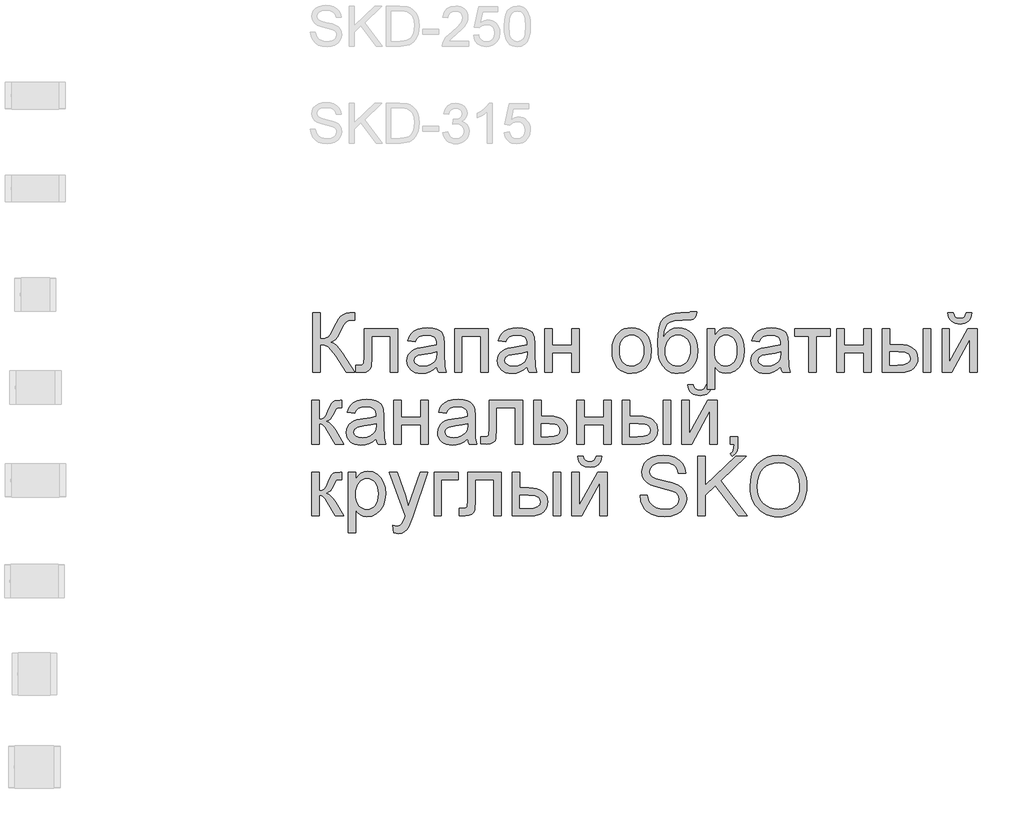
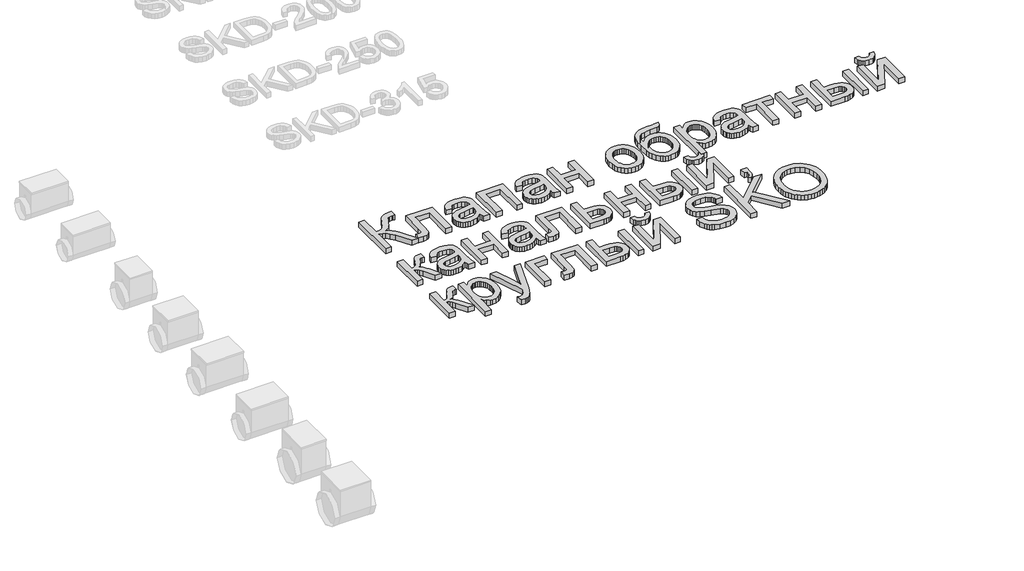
# One storey, part 9 of 31: 1 proxy.
"""IFC4 building model written with IfcOpenShell, lengths in millimetres."""

from ifc_helpers import new_model, si_unit, origin, origin_with_axes, place, context, project, spatial, polyline, outline, extrude, element, save

model = new_model("IFC4")

# Units and contexts
model_context = context("Model", 3, world=origin())
ifc_project = project(units=[si_unit("LENGTHUNIT", "METRE", prefix="MILLI")], contexts=[model_context])

# Site, building, storey
site = spatial("IfcSite", under=ifc_project)
building = spatial("IfcBuilding", under=site)
storey = spatial("IfcBuildingStorey", under=building, Name="Этаж 01", Elevation=0.0)

# Proxy
placement = place(None, origin())
element("IfcBuildingElementProxy", 1, Name="450 мм Arial", ObjectType="450 мм Arial", at=placement, inside=storey, context=model_context, shape_type="SweptSolid", body=[
    extrude(outline(polyline([(10419.0852891, -22173.162397), (10475.292307, -22173.162397), (10475.292307, -22369.8869595), (10513.3445678, -22366.1681847), (10538.1409744, -22355.0118601), (10558.1894249, -22328.7608774), (10581.9978174, -22279.7581282), (10613.0104787, -22216.9094607), (10627.9679126, -22199.8799419), (10648.1398648, -22185.7870202), (10672.0854815, -22176.3185528), (10698.3639091, -22173.162397), (10735.2497645, -22173.821073), (10735.2497645, -22230.0280909), (10722.8447001, -22229.6987529), (10710.4396356, -22229.3694149), (10684.6963823, -22232.7451294), (10666.5279029, -22242.8722727), (10650.8843481, -22264.1420182), (10633.154986, -22300.7259805), (10611.4049559, -22346.2844032), (10593.3599783, -22371.2043115), (10575.5620041, -22384.3229417), (10554.5529845, -22394.4775298), (10576.3235982, -22403.740161), (10597.9432654, -22419.8914451), (10619.4119859, -22442.9313824), (10640.7297599, -22472.8599727), (10735.2497645, -22622.8185399), (10670.0408415, -22622.8185399), (10590.121488, -22496.133191), (10559.2597733, -22455.5011159), (10533.8595805, -22429.9911437), (10507.8830461, -22416.5294531), (10475.292307, -22412.0422229), (10475.292307, -22622.8185399), (10419.0852891, -22622.8185399), (10419.0852891, -22173.162397)])), origin_with_axes(), (0.0, 0.0, 1.0), 50.0),
    extrude(outline(polyline([(10805.5085369, -22292.60231), (11058.4401172, -22292.60231), (11058.4401172, -22622.4892019), (11002.2330993, -22622.4892019), (11002.2330993, -22348.8093278), (10861.7155547, -22348.8093278), (10861.7155547, -22506.3426689), (10857.9281678, -22579.0165865), (10850.8336785, -22595.4697638), (10837.1249844, -22609.6999097), (10816.321801, -22619.5388823), (10787.9438438, -22622.8185399), (10742.2756418, -22619.9642772), (10742.2756418, -22566.611522), (10767.4151087, -22566.611522), (10792.829024, -22563.1534731), (10799.1825029, -22558.6799653), (10802.9836122, -22552.1755399), (10805.5085369, -22503.1590683), (10805.5085369, -22292.60231)])), origin_with_axes(), (0.0, 0.0, 1.0), 50.0),
    extrude(outline(polyline([(11353.5269609, -22580.6632765), (11326.6721919, -22603.6894913), (11299.0215227, -22618.7567046), (11269.9437222, -22627.072489), (11238.8075593, -22629.8444171), (11213.7813022, -22628.1771435), (11191.8357277, -22623.1753227), (11172.9708356, -22614.8389547), (11157.1866261, -22603.1680395), (11144.7232413, -22588.9035876), (11135.8208237, -22572.7866094), (11130.4793731, -22554.8171051), (11128.6988895, -22534.9950745), (11131.3884831, -22511.6944113), (11139.457264, -22490.5344451), (11151.9034958, -22472.4208554), (11167.7254419, -22458.2593216), (11186.3193163, -22447.5558367), (11207.0813324, -22439.8163939), (11255.7135763, -22431.3633853), (11313.1830565, -22422.4712594), (11353.1976229, -22412.0422229), (11353.5269609, -22399.5273791), (11349.6572395, -22374.4428018), (11338.0480751, -22358.0307917), (11312.0852632, -22345.8452859), (11275.9129734, -22341.7834506), (11242.4302772, -22344.4867667), (11219.0472795, -22352.5967148), (11203.1018316, -22367.595316), (11191.9317846, -22390.9645912), (11135.7247667, -22383.938714), (11145.4814049, -22353.2005011), (11160.0408887, -22329.0490481), (11180.7617376, -22310.5786756), (11209.0024707, -22296.8837039), (11243.5417929, -22288.4032505), (11283.1584093, -22285.5764328), (11321.1557805, -22288.0739126), (11351.2764846, -22295.5663519), (11373.9870839, -22306.8324559), (11389.7541404, -22320.6509292), (11400.2106217, -22337.7353377), (11406.9894955, -22358.799247), (11409.7339788, -22407.9803876), (11409.7339788, -22477.909822), (11412.5882414, -22575.5585376), (11423.7857332, -22622.8185399), (11367.5787154, -22622.8185399), (11358.5768102, -22603.2778188), (11353.5269609, -22580.6632765)]), holes=[polyline([(11353.5269609, -22468.2492408), (11315.7628708, -22477.6079288), (11262.8492329, -22485.4845959), (11214.4914373, -22494.5962804), (11201.9079814, -22500.8262575), (11192.5904606, -22509.4164902), (11186.8270457, -22519.7083025), (11184.9059074, -22531.0430185), (11189.0912444, -22547.7569218), (11201.6472555, -22561.4518934), (11222.2994922, -22570.5910228), (11250.7735064, -22573.6373992), (11280.9628226, -22570.2754072), (11307.6392003, -22560.1894311), (11329.2657286, -22545.3280541), (11344.3054971, -22527.6398592), (11350.9745915, -22509.4164902), (11353.1976229, -22484.1672439), (11353.5269609, -22468.2492408)])]), origin_with_axes(), (0.0, 0.0, 1.0), 50.0),
    extrude(outline(polyline([(11487.0186283, -22292.60231), (11739.9502087, -22292.60231), (11739.9502087, -22622.8185399), (11683.7431908, -22622.8185399), (11683.7431908, -22348.8093278), (11543.2256462, -22348.8093278), (11543.2256462, -22622.8185399), (11487.0186283, -22622.8185399), (11487.0186283, -22292.60231)])), origin_with_axes(), (0.0, 0.0, 1.0), 50.0),
    extrude(outline(polyline([(12035.0370524, -22580.6632765), (12008.1822834, -22603.6894913), (11980.5316142, -22618.7567046), (11951.4538137, -22627.072489), (11920.3176507, -22629.8444171), (11895.2913937, -22628.1771435), (11873.3458191, -22623.1753227), (11854.4809271, -22614.8389547), (11838.6967176, -22603.1680395), (11826.2333328, -22588.9035876), (11817.3309151, -22572.7866094), (11811.9894645, -22554.8171051), (11810.208981, -22534.9950745), (11812.8985746, -22511.6944113), (11820.9673555, -22490.5344451), (11833.4135872, -22472.4208554), (11849.2355334, -22458.2593216), (11867.8294077, -22447.5558367), (11888.5914238, -22439.8163939), (11937.2236678, -22431.3633853), (11994.693148, -22422.4712594), (12034.7077144, -22412.0422229), (12035.0370524, -22399.5273791), (12031.1673309, -22374.4428018), (12019.5581666, -22358.0307917), (11993.5953546, -22345.8452859), (11957.4230648, -22341.7834506), (11923.9403687, -22344.4867667), (11900.557371, -22352.5967148), (11884.6119231, -22367.595316), (11873.4418761, -22390.9645912), (11817.2348582, -22383.938714), (11826.9914963, -22353.2005011), (11841.5509802, -22329.0490481), (11862.2718291, -22310.5786756), (11890.5125621, -22296.8837039), (11925.0518844, -22288.4032505), (11964.6685007, -22285.5764328), (12002.6658719, -22288.0739126), (12032.7865761, -22295.5663519), (12055.4971753, -22306.8324559), (12071.2642319, -22320.6509292), (12081.7207132, -22337.7353377), (12088.4995869, -22358.799247), (12091.2440702, -22407.9803876), (12091.2440702, -22477.909822), (12094.0983329, -22575.5585376), (12105.2958247, -22622.8185399), (12049.0888068, -22622.8185399), (12040.0869016, -22603.2778188), (12035.0370524, -22580.6632765)]), holes=[polyline([(12035.0370524, -22468.2492408), (11997.2729623, -22477.6079288), (11944.3593244, -22485.4845959), (11896.0015287, -22494.5962804), (11883.4180728, -22500.8262575), (11874.100552, -22509.4164902), (11868.3371371, -22519.7083025), (11866.4159988, -22531.0430185), (11870.6013358, -22547.7569218), (11883.1573469, -22561.4518934), (11903.8095837, -22570.5910228), (11932.2835979, -22573.6373992), (11962.4729141, -22570.2754072), (11989.1492917, -22560.1894311), (12010.7758201, -22545.3280541), (12025.8155885, -22527.6398592), (12032.4846829, -22509.4164902), (12034.7077144, -22484.1672439), (12035.0370524, -22468.2492408)])]), origin_with_axes(), (0.0, 0.0, 1.0), 50.0),
    extrude(outline(polyline([(12168.5287198, -22292.60231), (12224.7357376, -22292.60231), (12224.7357376, -22419.0681002), (12372.2791595, -22419.0681002), (12372.2791595, -22292.60231), (12428.4861773, -22292.60231), (12428.4861773, -22622.8185399), (12372.2791595, -22622.8185399), (12372.2791595, -22475.275118), (12224.7357376, -22475.275118), (12224.7357376, -22622.8185399), (12168.5287198, -22622.8185399), (12168.5287198, -22292.60231)])), origin_with_axes(), (0.0, 0.0, 1.0), 50.0),
    extrude(outline(polyline([(12674.3918804, -22457.7104249), (12677.4313957, -22414.944514), (12686.5499414, -22378.0929646), (12701.7475177, -22347.1557767), (12723.0241244, -22322.1329502), (12744.4448165, -22306.1394738), (12768.0885401, -22294.7155621), (12793.9552951, -22287.8612151), (12822.0450816, -22285.5764328), (12853.0543123, -22288.3586527), (12881.0926397, -22296.7053125), (12906.160064, -22310.6164122), (12928.2565851, -22330.0919518), (12946.2912709, -22354.4732552), (12959.1731894, -22383.1016466), (12966.9023405, -22415.9771258), (12969.4787242, -22453.099693), (12964.9228819, -22509.8830523), (12959.2280791, -22533.1905767), (12951.2553551, -22553.1086642), (12928.8740938, -22585.4798447), (12898.1770482, -22609.6999097), (12861.7165877, -22624.8082903), (12822.0450816, -22629.8444171), (12790.5830113, -22627.072489), (12762.2839579, -22618.7567046), (12737.1479216, -22604.897064), (12715.1749022, -22585.4935671), (12697.3323302, -22560.8755519), (12684.5876359, -22531.3723565), (12676.9408193, -22496.9839809), (12674.3918804, -22457.7104249)]), holes=[polyline([(12730.5988983, -22457.6006456), (12732.2250047, -22484.8636565), (12737.1033237, -22508.4696434), (12745.2338555, -22528.4186064), (12756.6165999, -22544.7105453), (12770.4625181, -22557.3660439), (12785.9825712, -22566.4056858), (12803.176759, -22571.8294709), (12822.0450816, -22573.6373992), (12840.8173474, -22571.8191791), (12857.9429231, -22566.3645185), (12873.4218089, -22557.2734176), (12887.2540047, -22544.5458763), (12898.6367492, -22528.092699), (12906.7672809, -22507.8246899), (12911.6456, -22483.741849), (12913.2717063, -22455.8441763), (12911.6353082, -22429.4456776), (12906.7261137, -22406.4571994), (12898.5441228, -22386.8787417), (12887.0893357, -22370.7103045), (12873.2056808, -22358.0548059), (12857.7370869, -22349.0151641), (12840.6835538, -22343.591379), (12822.0450816, -22341.7834506), (12803.176759, -22343.5845178), (12785.9825712, -22348.9877193), (12770.4625181, -22357.9930551), (12756.6165999, -22370.6005252), (12745.2338555, -22386.8444357), (12737.1033237, -22406.7590926), (12732.2250047, -22430.3444959), (12730.5988983, -22457.6006456)])]), origin_with_axes(), (0.0, 0.0, 1.0), 50.0),
    extrude(outline(polyline([(13264.5655679, -22166.1365198), (13313.7467085, -22166.1365198), (13308.4224109, -22192.8540647), (13299.2558367, -22209.9933628), (13286.5488791, -22220.1342286), (13270.6034311, -22225.8564763), (13201.7717901, -22229.3694149), (13144.6179256, -22232.6079052), (13109.0631445, -22242.323376), (13087.793399, -22259.1745035), (13073.494641, -22283.8199634), (13065.0827997, -22316.4518698), (13061.4738042, -22357.2623364), (13084.0746241, -22325.8654475), (13110.1609378, -22303.4704638), (13139.7601901, -22290.0499405), (13172.8998259, -22285.5764328), (13203.5213982, -22288.4204036), (13231.3847649, -22296.952316), (13256.4899258, -22311.1721701), (13278.836881, -22331.0799658), (13297.1837518, -22355.8386357), (13310.2886596, -22384.6111124), (13318.1516042, -22417.3973959), (13320.7725857, -22454.1974863), (13315.5717899, -22507.8521347), (13309.0707951, -22530.7068193), (13299.9694024, -22550.9130776), (13277.2313583, -22584.3820513), (13250.6235928, -22609.2607924), (13235.0623725, -22618.2661282), (13216.9213379, -22624.6985109), (13172.8998259, -22629.8444171), (13145.9455693, -22628.1874353), (13122.1680522, -22623.2164899), (13101.5672745, -22614.931581), (13084.1432362, -22603.3327085), (13056.163229, -22573.1159474), (13035.5658819, -22535.4890815), (13028.1694994, -22510.9911375), (13022.8863691, -22478.8292239), (13018.6598648, -22391.5134879), (13021.3254442, -22332.3321363), (13029.3221824, -22283.6690169), (13042.6500794, -22245.5241297), (13061.3091352, -22217.8974747), (13085.4983248, -22198.3258782), (13115.4166233, -22184.3461665), (13151.0640307, -22175.9583394), (13192.4405469, -22173.162397), (13255.014766, -22171.8999347), (13264.5655679, -22166.1365198)]), holes=[polyline([(13264.5655679, -22452.441017), (13263.0423797, -22429.2261189), (13258.472815, -22408.2136687), (13250.8568738, -22389.4036664), (13240.1945562, -22372.7961118), (13226.7603105, -22359.2280725), (13210.828585, -22349.5366159), (13192.3993797, -22343.7217419), (13171.4726946, -22341.7834506), (13149.6334688, -22343.8315213), (13130.4426693, -22349.9757332), (13113.9002963, -22360.2160865), (13100.0063496, -22374.5525811), (13089.0078328, -22392.3128186), (13081.1517494, -22412.8244007), (13076.4380993, -22436.0873272), (13074.8668826, -22462.1015982), (13076.6027683, -22487.5738338), (13081.8104254, -22509.8693299), (13090.4898538, -22528.9880867), (13102.6410536, -22544.930104), (13117.3377616, -22557.4895457), (13133.6537148, -22566.4605754), (13151.5889131, -22571.8431933), (13171.1433566, -22573.6373992), (13190.9653872, -22571.5618838), (13208.8251122, -22565.3353373), (13224.7225317, -22554.9577598), (13238.6576456, -22540.4291514), (13249.9923616, -22522.4768001), (13258.0885873, -22501.8279939), (13262.9463228, -22478.4827329), (13264.5655679, -22452.441017)])]), origin_with_axes(), (0.0, 0.0, 1.0), 50.0),
    extrude(outline(polyline([(13391.0313581, -22749.28433), (13391.0313581, -22292.60231), (13447.2383759, -22292.60231), (13447.2383759, -22347.7115345), (13465.5715243, -22320.5274275), (13486.1002594, -22301.1102082), (13510.0321537, -22289.4598766), (13538.5747799, -22285.5764328), (13576.5858735, -22291.0105097), (13609.8215662, -22307.3127404), (13636.8821715, -22333.4951111), (13656.3680029, -22368.5696076), (13668.1418362, -22409.9838605), (13672.0664473, -22455.1855003), (13667.6341068, -22503.2551252), (13654.3370852, -22546.247456), (13632.6007776, -22581.9806285), (13602.8505787, -22608.2727784), (13568.2014771, -22624.4515074), (13531.7684614, -22629.8444171), (13505.9291511, -22626.2354216), (13482.8617691, -22615.408435), (13463.1152118, -22599.065037), (13447.2383759, -22578.9068072), (13447.2383759, -22749.28433), (13391.0313581, -22749.28433)]), holes=[polyline([(13447.2383759, -22460.3451289), (13448.7581335, -22487.433179), (13453.3174064, -22510.7338422), (13460.9161945, -22530.2471184), (13471.5544979, -22545.9730076), (13484.3609431, -22558.076179), (13498.4641566, -22566.7213013), (13513.8641385, -22571.9083748), (13530.5608887, -22573.6373992), (13547.4977812, -22571.8466239), (13563.1790727, -22566.4742979), (13577.604763, -22557.5204211), (13590.7748522, -22544.9849937), (13601.7493547, -22528.6896241), (13609.5882851, -22508.455921), (13614.2916434, -22484.2838844), (13615.8594295, -22456.1735143), (13614.32938, -22429.3187453), (13609.7392317, -22406.0592493), (13602.0889845, -22386.3950265), (13591.3786385, -22370.3260769), (13578.5413179, -22357.8386779), (13564.5101471, -22348.9191072), (13549.285126, -22343.5673647), (13532.8662547, -22341.7834506), (13516.4988424, -22343.6805747), (13501.0988606, -22349.3719469), (13486.666309, -22358.8575673), (13473.2011879, -22372.1374358), (13461.8424576, -22389.0331611), (13453.7290789, -22409.3663517), (13448.8610517, -22433.1370076), (13447.2383759, -22460.3451289)])]), origin_with_axes(), (0.0, 0.0, 1.0), 50.0),
    extrude(outline(polyline([(13946.0756594, -22580.6632765), (13919.2208903, -22603.6894913), (13891.5702211, -22618.7567046), (13862.4924206, -22627.072489), (13831.3562577, -22629.8444171), (13806.3300007, -22628.1771435), (13784.3844261, -22623.1753227), (13765.5195341, -22614.8389547), (13749.7353245, -22603.1680395), (13737.2719398, -22588.9035876), (13728.3695221, -22572.7866094), (13723.0280715, -22554.8171051), (13721.2475879, -22534.9950745), (13723.9371816, -22511.6944113), (13732.0059625, -22490.5344451), (13744.4521942, -22472.4208554), (13760.2741404, -22458.2593216), (13778.8680147, -22447.5558367), (13799.6300308, -22439.8163939), (13848.2622748, -22431.3633853), (13905.7317549, -22422.4712594), (13945.7463214, -22412.0422229), (13946.0756594, -22399.5273791), (13942.2059379, -22374.4428018), (13930.5967736, -22358.0307917), (13904.6339616, -22345.8452859), (13868.4616718, -22341.7834506), (13834.9789756, -22344.4867667), (13811.595978, -22352.5967148), (13795.65053, -22367.595316), (13784.480483, -22390.9645912), (13728.2734652, -22383.938714), (13738.0301033, -22353.2005011), (13752.5895872, -22329.0490481), (13773.310436, -22310.5786756), (13801.5511691, -22296.8837039), (13836.0904914, -22288.4032505), (13875.7071077, -22285.5764328), (13913.7044789, -22288.0739126), (13943.8251831, -22295.5663519), (13966.5357823, -22306.8324559), (13982.3028388, -22320.6509292), (13992.7593202, -22337.7353377), (13999.5381939, -22358.799247), (14002.2826772, -22407.9803876), (14002.2826772, -22477.909822), (14005.1369398, -22575.5585376), (14016.3344317, -22622.8185399), (13960.1274138, -22622.8185399), (13951.1255086, -22603.2778188), (13946.0756594, -22580.6632765)]), holes=[polyline([(13946.0756594, -22468.2492408), (13908.3115692, -22477.6079288), (13855.3979313, -22485.4845959), (13807.0401357, -22494.5962804), (13794.4566798, -22500.8262575), (13785.139159, -22509.4164902), (13779.3757441, -22519.7083025), (13777.4546058, -22531.0430185), (13781.6399428, -22547.7569218), (13794.1959539, -22561.4518934), (13814.8481907, -22570.5910228), (13843.3222048, -22573.6373992), (13873.5115211, -22570.2754072), (13900.1878987, -22560.1894311), (13921.814427, -22545.3280541), (13936.8541955, -22527.6398592), (13943.5232899, -22509.4164902), (13945.7463214, -22484.1672439), (13946.0756594, -22468.2492408)])]), origin_with_axes(), (0.0, 0.0, 1.0), 50.0),
    extrude(outline(polyline([(14051.4638178, -22292.60231), (14318.4471526, -22292.60231), (14318.4471526, -22348.8093278), (14213.0589942, -22348.8093278), (14213.0589942, -22622.8185399), (14156.8519763, -22622.8185399), (14156.8519763, -22348.8093278), (14051.4638178, -22348.8093278), (14051.4638178, -22292.60231)])), origin_with_axes(), (0.0, 0.0, 1.0), 50.0),
    extrude(outline(polyline([(14367.6282932, -22292.60231), (14423.8353111, -22292.60231), (14423.8353111, -22419.0681002), (14571.378733, -22419.0681002), (14571.378733, -22292.60231), (14627.5857508, -22292.60231), (14627.5857508, -22622.8185399), (14571.378733, -22622.8185399), (14571.378733, -22475.275118), (14423.8353111, -22475.275118), (14423.8353111, -22622.8185399), (14367.6282932, -22622.8185399), (14367.6282932, -22292.60231)])), origin_with_axes(), (0.0, 0.0, 1.0), 50.0),
    extrude(outline(polyline([(15021.0348758, -22292.60231), (15077.2418936, -22292.60231), (15077.2418936, -22622.8185399), (15021.0348758, -22622.8185399), (15021.0348758, -22292.60231)])), origin_with_axes(), (0.0, 0.0, 1.0), 50.0),
    extrude(outline(polyline([(14711.8962776, -22292.60231), (14768.1032954, -22292.60231), (14768.1032954, -22412.0422229), (14837.5936124, -22412.0422229), (14869.5702734, -22413.8021228), (14897.6566293, -22419.0818226), (14921.8526802, -22427.8813221), (14942.1584259, -22440.2006215), (14958.223945, -22455.6143258), (14969.6993158, -22473.6970401), (14976.5845382, -22494.4487644), (14978.8796124, -22517.8694987), (14976.9550435, -22538.7653084), (14971.1813367, -22558.0899014), (14961.5584922, -22575.8432777), (14948.0865098, -22592.0254373), (14930.3880232, -22605.4974197), (14908.0856658, -22615.1202642), (14881.1794377, -22620.893971), (14849.6693389, -22622.8185399), (14711.8962776, -22622.8185399), (14711.8962776, -22292.60231)]), holes=[polyline([(14768.1032954, -22566.611522), (14825.8472239, -22566.611522), (14870.6097465, -22563.6612025), (14900.3873902, -22554.8102439), (14917.1012934, -22539.7018633), (14922.6725945, -22517.9792781), (14918.5421472, -22499.6186848), (14906.1508051, -22483.3987886), (14895.3958612, -22476.7708614), (14879.6528189, -22472.0366277), (14833.2024392, -22468.2492408), (14768.1032954, -22468.2492408), (14768.1032954, -22566.611522)])]), origin_with_axes(), (0.0, 0.0, 1.0), 50.0),
    extrude(outline(polyline([(15161.5524204, -22292.60231), (15217.7594383, -22292.60231), (15217.7594383, -22544.436097), (15355.8618376, -22292.60231), (15428.5357552, -22292.60231), (15428.5357552, -22622.8185399), (15372.3287374, -22622.8185399), (15372.3287374, -22372.5216635), (15235.1045727, -22622.8185399), (15161.5524204, -22622.8185399), (15161.5524204, -22292.60231)])), origin_with_axes(), (0.0, 0.0, 1.0), 50.0),
    extrude(outline(polyline([(15344.2252284, -22173.162397), (15386.3804918, -22173.162397), (15377.3099745, -22209.1562954), (15369.3475424, -22223.6025694), (15359.1003279, -22235.6817265), (15346.7741673, -22245.2153753), (15332.5748968, -22252.0251245), (15298.5570264, -22257.4729238), (15261.6437261, -22252.0662917), (15246.2952033, -22245.3080016), (15233.0187654, -22235.8463955), (15222.0065262, -22223.8186974), (15213.4505995, -22209.3621317), (15203.7076838, -22173.162397), (15245.8629472, -22173.162397), (15251.7910311, -22191.6739369), (15261.671171, -22204.8337343), (15275.5582564, -22212.6966789), (15293.5071772, -22215.3176604), (15313.7614639, -22212.7790134), (15328.4170047, -22205.1630723), (15338.2971445, -22192.0856094), (15344.2252284, -22173.162397)])), origin_with_axes(), (0.0, 0.0, 1.0), 50.0),
    extrude(outline(polyline([(10412.0594119, -22833.0343932), (10468.2664298, -22833.0343932), (10468.2664298, -22973.5519378), (10491.1279756, -22971.0270132), (10505.9207405, -22963.4522393), (10519.0119258, -22943.6919596), (10536.7687328, -22904.6105175), (10551.0812131, -22872.6510095), (10562.4022067, -22853.8375765), (10572.9684674, -22843.5869314), (10585.0167491, -22837.3157871), (10626.1291088, -22833.0343932), (10636.8874833, -22833.0343932), (10636.8874833, -22889.570749), (10621.7379355, -22889.241411), (10604.1732424, -22890.723432), (10594.2931026, -22895.1694949), (10574.9719402, -22932.1651297), (10563.10205, -22956.8243121), (10552.3025082, -22972.1796961), (10539.2250453, -22982.4303412), (10520.5213917, -22991.7753069), (10538.3330882, -22999.68628), (10555.9801158, -23013.6488387), (10573.4624744, -23033.6629831), (10590.780164, -23059.7287132), (10650.9392378, -23163.250623), (10587.0476667, -23163.250623), (10528.0961656, -23061.9242998), (10512.1781624, -23034.9597515), (10498.455746, -23019.0554708), (10484.5961053, -23011.2748607), (10468.2664298, -23008.681324), (10468.2664298, -23163.250623), (10412.0594119, -23163.250623), (10412.0594119, -22833.0343932)])), origin_with_axes(), (0.0, 0.0, 1.0), 50.0),
    extrude(outline(polyline([(10896.8449409, -23121.0953597), (10869.9901718, -23144.1215745), (10842.3395027, -23159.1887878), (10813.2617022, -23167.5045722), (10782.1255392, -23170.2765003), (10757.0992822, -23168.6092267), (10735.1537076, -23163.6074059), (10716.2888156, -23155.2710379), (10700.5046061, -23143.6001227), (10688.0412213, -23129.3356707), (10679.1388036, -23113.2186926), (10673.797353, -23095.2491882), (10672.0168695, -23075.4271577), (10674.7064631, -23052.1264945), (10682.775244, -23030.9665283), (10695.2214757, -23012.8529386), (10711.0434219, -22998.6914048), (10729.6372962, -22987.9879199), (10750.3993123, -22980.248477), (10799.0315563, -22971.7954685), (10856.5010365, -22962.9033426), (10896.5156029, -22952.4743061), (10896.8449409, -22939.9594623), (10892.9752194, -22914.874885), (10881.3660551, -22898.4628749), (10855.4032431, -22886.2773691), (10819.2309533, -22882.2155338), (10785.7482572, -22884.9188498), (10762.3652595, -22893.028798), (10746.4198116, -22908.0273992), (10735.2497645, -22931.3966744), (10679.0427467, -22924.3707972), (10688.7993848, -22893.6325843), (10703.3588687, -22869.4811313), (10724.0797175, -22851.0107587), (10752.3204506, -22837.3157871), (10786.8597729, -22828.8353337), (10826.4763892, -22826.0085159), (10864.4737604, -22828.5059957), (10894.5944646, -22835.9984351), (10917.3050638, -22847.264539), (10933.0721203, -22861.0830124), (10943.5286017, -22878.1674209), (10950.3074754, -22899.2313302), (10953.0519587, -22948.4124708), (10953.0519587, -23018.3419051), (10955.9062214, -23115.9906207), (10967.1037132, -23163.250623), (10910.8966953, -23163.250623), (10901.8947901, -23143.709902), (10896.8449409, -23121.0953597)]), holes=[polyline([(10896.8449409, -23008.681324), (10859.0808508, -23018.040012), (10806.1672129, -23025.916679), (10757.8094172, -23035.0283636), (10745.2259613, -23041.2583406), (10735.9084405, -23049.8485734), (10730.1450256, -23060.1403857), (10728.2238873, -23071.4751017), (10732.4092243, -23088.189005), (10744.9652354, -23101.8839766), (10765.6174722, -23111.023106), (10794.0914864, -23114.0694824), (10824.2808026, -23110.7074904), (10850.9571802, -23100.6215143), (10872.5837086, -23085.7601373), (10887.623477, -23068.0719424), (10894.2925714, -23049.8485734), (10896.5156029, -23024.5993271), (10896.8449409, -23008.681324)])]), origin_with_axes(), (0.0, 0.0, 1.0), 50.0),
    extrude(outline(polyline([(11030.3366083, -22833.0343932), (11086.5436261, -22833.0343932), (11086.5436261, -22959.5001833), (11234.087048, -22959.5001833), (11234.087048, -22833.0343932), (11290.2940658, -22833.0343932), (11290.2940658, -23163.250623), (11234.087048, -23163.250623), (11234.087048, -23015.7072012), (11086.5436261, -23015.7072012), (11086.5436261, -23163.250623), (11030.3366083, -23163.250623), (11030.3366083, -22833.0343932)])), origin_with_axes(), (0.0, 0.0, 1.0), 50.0),
    extrude(outline(polyline([(11585.3809096, -23121.0953597), (11558.5261405, -23144.1215745), (11530.8754714, -23159.1887878), (11501.7976709, -23167.5045722), (11470.6615079, -23170.2765003), (11445.6352509, -23168.6092267), (11423.6896763, -23163.6074059), (11404.8247843, -23155.2710379), (11389.0405747, -23143.6001227), (11376.57719, -23129.3356707), (11367.6747723, -23113.2186926), (11362.3333217, -23095.2491882), (11360.5528382, -23075.4271577), (11363.2424318, -23052.1264945), (11371.3112127, -23030.9665283), (11383.7574444, -23012.8529386), (11399.5793906, -22998.6914048), (11418.1732649, -22987.9879199), (11438.935281, -22980.248477), (11487.567525, -22971.7954685), (11545.0370051, -22962.9033426), (11585.0515716, -22952.4743061), (11585.3809096, -22939.9594623), (11581.5111881, -22914.874885), (11569.9020238, -22898.4628749), (11543.9392118, -22886.2773691), (11507.766922, -22882.2155338), (11474.2842258, -22884.9188498), (11450.9012282, -22893.028798), (11434.9557802, -22908.0273992), (11423.7857332, -22931.3966744), (11367.5787154, -22924.3707972), (11377.3353535, -22893.6325843), (11391.8948374, -22869.4811313), (11412.6156862, -22851.0107587), (11440.8564193, -22837.3157871), (11475.3957416, -22828.8353337), (11515.0123579, -22826.0085159), (11553.0097291, -22828.5059957), (11583.1304333, -22835.9984351), (11605.8410325, -22847.264539), (11621.608089, -22861.0830124), (11632.0645704, -22878.1674209), (11638.8434441, -22899.2313302), (11641.5879274, -22948.4124708), (11641.5879274, -23018.3419051), (11644.44219, -23115.9906207), (11655.6396819, -23163.250623), (11599.432664, -23163.250623), (11590.4307588, -23143.709902), (11585.3809096, -23121.0953597)]), holes=[polyline([(11585.3809096, -23008.681324), (11547.6168194, -23018.040012), (11494.7031815, -23025.916679), (11446.3453859, -23035.0283636), (11433.76193, -23041.2583406), (11424.4444092, -23049.8485734), (11418.6809943, -23060.1403857), (11416.759856, -23071.4751017), (11420.945193, -23088.189005), (11433.5012041, -23101.8839766), (11454.1534409, -23111.023106), (11482.6274551, -23114.0694824), (11512.8167713, -23110.7074904), (11539.4931489, -23100.6215143), (11561.1196772, -23085.7601373), (11576.1594457, -23068.0719424), (11582.8285401, -23049.8485734), (11585.0515716, -23024.5993271), (11585.3809096, -23008.681324)])]), origin_with_axes(), (0.0, 0.0, 1.0), 50.0),
    extrude(outline(polyline([(11746.9760859, -22833.0343932), (11999.9076662, -22833.0343932), (11999.9076662, -23162.9212851), (11943.7006484, -23162.9212851), (11943.7006484, -22889.241411), (11803.1831037, -22889.241411), (11803.1831037, -23046.7747521), (11799.3957168, -23119.4486697), (11792.3012275, -23135.901847), (11778.5925334, -23150.1319929), (11757.7893501, -23159.9709655), (11729.4113928, -23163.250623), (11683.7431908, -23160.3963604), (11683.7431908, -23107.0436052), (11708.8826578, -23107.0436052), (11734.2965731, -23103.5855562), (11740.6500519, -23099.1120485), (11744.4511613, -23092.6076231), (11746.9760859, -23043.5911514), (11746.9760859, -22833.0343932)])), origin_with_axes(), (0.0, 0.0, 1.0), 50.0),
    extrude(outline(polyline([(12084.218193, -22833.0343932), (12140.4252109, -22833.0343932), (12140.4252109, -22952.4743061), (12205.1950166, -22952.4743061), (12235.0961621, -22954.234206), (12261.3471448, -22959.5139057), (12283.9479647, -22968.3134053), (12302.8986218, -22980.6327047), (12317.8835006, -22996.046409), (12328.5869855, -23014.1291233), (12335.0090764, -23034.8808476), (12337.1497733, -23058.3015819), (12335.3281225, -23079.1973916), (12329.8631702, -23098.5219846), (12320.7549163, -23116.2753609), (12308.0033608, -23132.4575205), (12291.2448596, -23145.9295029), (12270.1157689, -23155.5523474), (12244.6160885, -23161.3260541), (12214.7458184, -23163.250623), (12084.218193, -23163.250623), (12084.218193, -22833.0343932)]), holes=[polyline([(12140.4252109, -23107.0436052), (12192.8997314, -23107.0436052), (12233.6141411, -23104.0932857), (12260.6884688, -23095.242327), (12275.8791838, -23080.1339465), (12280.9427555, -23058.4113612), (12277.1965358, -23040.050768), (12265.9578767, -23023.8308717), (12256.1909468, -23017.2029446), (12241.8750358, -23012.4687109), (12199.5962707, -23008.681324), (12140.4252109, -23008.681324), (12140.4252109, -23107.0436052)])]), origin_with_axes(), (0.0, 0.0, 1.0), 50.0),
    extrude(outline(polyline([(12407.4085457, -22833.0343932), (12463.6155635, -22833.0343932), (12463.6155635, -22959.5001833), (12611.1589854, -22959.5001833), (12611.1589854, -22833.0343932), (12667.3660032, -22833.0343932), (12667.3660032, -23163.250623), (12611.1589854, -23163.250623), (12611.1589854, -23015.7072012), (12463.6155635, -23015.7072012), (12463.6155635, -23163.250623), (12407.4085457, -23163.250623), (12407.4085457, -22833.0343932)])), origin_with_axes(), (0.0, 0.0, 1.0), 50.0),
    extrude(outline(polyline([(12751.67653, -22833.0343932), (12807.8835478, -22833.0343932), (12807.8835478, -22952.4743061), (12877.3738648, -22952.4743061), (12909.3505258, -22954.234206), (12937.4368817, -22959.5139057), (12961.6329326, -22968.3134053), (12981.9386783, -22980.6327047), (12998.0041974, -22996.046409), (13009.4795682, -23014.1291233), (13016.3647906, -23034.8808476), (13018.6598648, -23058.3015819), (13016.7352959, -23079.1973916), (13010.9615892, -23098.5219846), (13001.3387446, -23116.2753609), (12987.8667622, -23132.4575205), (12970.1682756, -23145.9295029), (12947.8659182, -23155.5523474), (12920.9596901, -23161.3260541), (12889.4495913, -23163.250623), (12751.67653, -23163.250623), (12751.67653, -22833.0343932)]), holes=[polyline([(12807.8835478, -23107.0436052), (12865.6274763, -23107.0436052), (12910.3899989, -23104.0932857), (12940.1676426, -23095.242327), (12956.8815459, -23080.1339465), (12962.4528469, -23058.4113612), (12958.3223996, -23040.050768), (12945.9310575, -23023.8308717), (12935.1761136, -23017.2029446), (12919.4330713, -23012.4687109), (12872.9826916, -23008.681324), (12807.8835478, -23008.681324), (12807.8835478, -23107.0436052)])]), origin_with_axes(), (0.0, 0.0, 1.0), 50.0),
    extrude(outline(polyline([(13060.8151282, -22833.0343932), (13117.022146, -22833.0343932), (13117.022146, -23163.250623), (13060.8151282, -23163.250623), (13060.8151282, -22833.0343932)])), origin_with_axes(), (0.0, 0.0, 1.0), 50.0),
    extrude(outline(polyline([(13201.3326728, -22833.0343932), (13257.5396907, -22833.0343932), (13257.5396907, -23084.8681802), (13395.64209, -22833.0343932), (13468.3160076, -22833.0343932), (13468.3160076, -23163.250623), (13412.1089898, -23163.250623), (13412.1089898, -22912.9537467), (13274.8848251, -23163.250623), (13201.3326728, -23163.250623), (13201.3326728, -22833.0343932)])), origin_with_axes(), (0.0, 0.0, 1.0), 50.0),
    extrude(outline(polyline([(13384.0054808, -22713.5944802), (13426.1607442, -22713.5944802), (13417.0902269, -22749.5883786), (13409.1277948, -22764.0346526), (13398.8805803, -22776.1138097), (13386.5544197, -22785.6474585), (13372.3551493, -22792.4572077), (13338.3372788, -22797.905007), (13301.4239785, -22792.4983749), (13286.0754557, -22785.7400848), (13272.7990178, -22776.2784787), (13261.7867786, -22764.2507806), (13253.2308519, -22749.7942149), (13243.4879362, -22713.5944802), (13285.6431996, -22713.5944802), (13291.5712835, -22732.10602), (13301.4514234, -22745.2658174), (13315.3385088, -22753.1287621), (13333.2874296, -22755.7497436), (13353.5417163, -22753.2110966), (13368.1972571, -22745.5951554), (13378.0773969, -22732.5176925), (13384.0054808, -22713.5944802)])), origin_with_axes(), (0.0, 0.0, 1.0), 50.0),
    extrude(outline(polyline([(13566.6782889, -23163.250623), (13566.6782889, -23107.0436052), (13622.8853067, -23107.0436052), (13622.8853067, -23163.250623), (13620.3603821, -23195.4022448), (13612.7856082, -23220.7201032), (13599.7218677, -23240.1373225), (13580.7300433, -23254.5870271), (13566.6782889, -23233.5093954), (13578.8637947, -23223.3273623), (13587.3168032, -23209.248163), (13592.448987, -23189.7348868), (13594.6720184, -23163.250623), (13566.6782889, -23163.250623)])), origin_with_axes(), (0.0, 0.0, 1.0), 50.0),
    extrude(outline(polyline([(10412.0594119, -23373.4664763), (10468.2664298, -23373.4664763), (10468.2664298, -23513.984021), (10491.1279756, -23511.4590963), (10505.9207405, -23503.8843225), (10519.0119258, -23484.1240427), (10536.7687328, -23445.0426006), (10551.0812131, -23413.0830927), (10562.4022067, -23394.2696597), (10572.9684674, -23384.0190146), (10585.0167491, -23377.7478703), (10626.1291088, -23373.4664763), (10636.8874833, -23373.4664763), (10636.8874833, -23430.0028322), (10621.7379355, -23429.6734942), (10604.1732424, -23431.1555152), (10594.2931026, -23435.6015781), (10574.9719402, -23472.5972129), (10563.10205, -23497.2563953), (10552.3025082, -23512.6117793), (10539.2250453, -23522.8624244), (10520.5213917, -23532.20739), (10538.3330882, -23540.1183631), (10555.9801158, -23554.0809219), (10573.4624744, -23574.0950663), (10590.780164, -23600.1607964), (10650.9392378, -23703.6827062), (10587.0476667, -23703.6827062), (10528.0961656, -23602.356383), (10512.1781624, -23575.3918347), (10498.455746, -23559.487554), (10484.5961053, -23551.7069438), (10468.2664298, -23549.1134071), (10468.2664298, -23703.6827062), (10412.0594119, -23703.6827062), (10412.0594119, -23373.4664763)])), origin_with_axes(), (0.0, 0.0, 1.0), 50.0),
    extrude(outline(polyline([(10686.0686239, -23830.1484964), (10686.0686239, -23373.4664763), (10742.2756418, -23373.4664763), (10742.2756418, -23428.5757009), (10760.6087902, -23401.3915939), (10781.1375252, -23381.9743746), (10805.0694195, -23370.324043), (10833.6120458, -23366.4405991), (10871.6231394, -23371.874676), (10904.8588321, -23388.1769068), (10931.9194374, -23414.3592774), (10951.4052687, -23449.4337739), (10963.1791021, -23490.8480268), (10967.1037132, -23536.0496667), (10962.6713727, -23584.1192915), (10949.3743511, -23627.1116223), (10927.6380434, -23662.8447948), (10897.8878445, -23689.1369448), (10863.2387429, -23705.3156738), (10826.8057272, -23710.7085835), (10800.966417, -23707.0995879), (10777.8990349, -23696.2726013), (10758.1524776, -23679.9292033), (10742.2756418, -23659.7709735), (10742.2756418, -23830.1484964), (10686.0686239, -23830.1484964)]), holes=[polyline([(10742.2756418, -23541.2092952), (10743.7953994, -23568.2973454), (10748.3546723, -23591.5980085), (10755.9534604, -23611.1112847), (10766.5917638, -23626.837174), (10779.3982089, -23638.9403453), (10793.5014225, -23647.5854677), (10808.9014043, -23652.7725411), (10825.5981546, -23654.5015656), (10842.5350471, -23652.7107903), (10858.2163385, -23647.3384642), (10872.6420288, -23638.3845875), (10885.812118, -23625.84916), (10896.7866206, -23609.5537905), (10904.625551, -23589.3200874), (10909.3289093, -23565.1480508), (10910.8966953, -23537.0376806), (10909.3666459, -23510.1829116), (10904.7764976, -23486.9234157), (10897.1262504, -23467.2591929), (10886.4159044, -23451.1902432), (10873.5785838, -23438.7028442), (10859.5474129, -23429.7832735), (10844.3223918, -23424.4315311), (10827.9035205, -23422.647617), (10811.5361083, -23424.544741), (10796.1361264, -23430.2361133), (10781.7035749, -23439.7217337), (10768.2384537, -23453.0016022), (10756.8797235, -23469.8973275), (10748.7663448, -23490.2305181), (10743.8983175, -23514.001174), (10742.2756418, -23541.2092952)])]), origin_with_axes(), (0.0, 0.0, 1.0), 50.0),
    extrude(outline(polyline([(11030.3366083, -23830.1484964), (11023.310731, -23776.0272858), (11051.8533573, -23780.9673558), (11066.8656809, -23779.4167227), (11078.5297349, -23774.7648235), (11094.8868553, -23757.4745788), (11110.2559618, -23716.0877707), (11114.6471351, -23702.4751336), (10995.2072221, -23373.4664763), (11054.4880613, -23373.4664763), (11117.8307357, -23556.7979604), (11139.8963814, -23630.130554), (11161.962027, -23565.3607482), (11227.0611708, -23373.4664763), (11285.9028926, -23373.4664763), (11170.9639322, -23711.5868181), (11141.103954, -23784.9194117), (11125.8171821, -23808.3298542), (11108.4994925, -23824.5497505), (11088.3824299, -23834.0182178), (11064.6975391, -23837.1743736), (11030.3366083, -23830.1484964)])), origin_with_axes(), (0.0, 0.0, 1.0), 50.0),
    extrude(outline(polyline([(11332.4493292, -23373.4664763), (11515.1221372, -23373.4664763), (11515.1221372, -23429.6734942), (11388.6563471, -23429.6734942), (11388.6563471, -23703.6827062), (11332.4493292, -23703.6827062), (11332.4493292, -23373.4664763)])), origin_with_axes(), (0.0, 0.0, 1.0), 50.0),
    extrude(outline(polyline([(11585.3809096, -23373.4664763), (11838.3124899, -23373.4664763), (11838.3124899, -23703.3533682), (11782.105472, -23703.3533682), (11782.105472, -23429.6734942), (11641.5879274, -23429.6734942), (11641.5879274, -23587.2068352), (11637.8005405, -23659.8807529), (11630.7060512, -23676.3339302), (11616.9973571, -23690.5640761), (11596.1941737, -23700.4030487), (11567.8162165, -23703.6827062), (11522.1480145, -23700.8284436), (11522.1480145, -23647.4756884), (11547.2874814, -23647.4756884), (11572.7013967, -23644.0176394), (11579.0548756, -23639.5441317), (11582.8559849, -23633.0397062), (11585.3809096, -23584.0232346), (11585.3809096, -23373.4664763)])), origin_with_axes(), (0.0, 0.0, 1.0), 50.0),
    extrude(outline(polyline([(12231.7616149, -23373.4664763), (12287.9686327, -23373.4664763), (12287.9686327, -23703.6827062), (12231.7616149, -23703.6827062), (12231.7616149, -23373.4664763)])), origin_with_axes(), (0.0, 0.0, 1.0), 50.0),
    extrude(outline(polyline([(11922.6230167, -23373.4664763), (11978.8300345, -23373.4664763), (11978.8300345, -23492.9063893), (12048.3203515, -23492.9063893), (12080.2970125, -23494.6662892), (12108.3833684, -23499.9459889), (12132.5794192, -23508.7454885), (12152.885165, -23521.0647879), (12168.9506841, -23536.4784922), (12180.4260549, -23554.5612065), (12187.3112773, -23575.3129308), (12189.6063515, -23598.7336651), (12187.6817826, -23619.6294748), (12181.9080758, -23638.9540677), (12172.2852313, -23656.707444), (12158.8132489, -23672.8896037), (12141.1147623, -23686.361586), (12118.8124049, -23695.9844306), (12091.9061768, -23701.7581373), (12060.396078, -23703.6827062), (11922.6230167, -23703.6827062), (11922.6230167, -23373.4664763)]), holes=[polyline([(11978.8300345, -23647.4756884), (12036.573963, -23647.4756884), (12081.3364855, -23644.5253688), (12111.1141293, -23635.6744102), (12127.8280325, -23620.5660297), (12133.3993336, -23598.8434444), (12129.2688863, -23580.4828512), (12116.8775442, -23564.2629549), (12106.1226003, -23557.6350278), (12090.379558, -23552.9007941), (12043.9291783, -23549.1134071), (11978.8300345, -23549.1134071), (11978.8300345, -23647.4756884)])]), origin_with_axes(), (0.0, 0.0, 1.0), 50.0),
    extrude(outline(polyline([(12372.2791595, -23373.4664763), (12428.4861773, -23373.4664763), (12428.4861773, -23625.3002634), (12566.5885767, -23373.4664763), (12639.2624943, -23373.4664763), (12639.2624943, -23703.6827062), (12583.0554764, -23703.6827062), (12583.0554764, -23453.3858299), (12445.8313118, -23703.6827062), (12372.2791595, -23703.6827062), (12372.2791595, -23373.4664763)])), origin_with_axes(), (0.0, 0.0, 1.0), 50.0),
    extrude(outline(polyline([(12554.9519675, -23254.0265634), (12597.1072309, -23254.0265634), (12588.0367136, -23290.0204618), (12580.0742815, -23304.4667357), (12569.827067, -23316.5458928), (12557.5009064, -23326.0795417), (12543.3016359, -23332.8892908), (12509.2837655, -23338.3370902), (12472.3704652, -23332.9304581), (12457.0219424, -23326.172168), (12443.7455045, -23316.7105618), (12432.7332652, -23304.6828638), (12424.1773386, -23290.226298), (12414.4344229, -23254.0265634), (12456.5896863, -23254.0265634), (12462.5177702, -23272.5381032), (12472.39791, -23285.6979006), (12486.2849955, -23293.5608452), (12504.2339162, -23296.1818268), (12524.488203, -23293.6431797), (12539.1437437, -23286.0272386), (12549.0238836, -23272.9497757), (12554.9519675, -23254.0265634)])), origin_with_axes(), (0.0, 0.0, 1.0), 50.0),
    extrude(outline(polyline([(12885.1681974, -23549.1134071), (12941.3752152, -23549.1134071), (12947.824751, -23580.3044598), (12959.488805, -23605.3753146), (12977.6847292, -23625.2728185), (13003.7298757, -23640.9438181), (13035.5658819, -23651.1121287), (13071.1343854, -23654.5015656), (13102.4489397, -23651.9354737), (13129.8663278, -23644.2371981), (13152.0829201, -23632.0516923), (13167.795087, -23616.0239098), (13177.1400526, -23597.6221493), (13180.2550411, -23578.3147094), (13177.9222303, -23559.5012764), (13170.9237979, -23543.2402129), (13156.7073745, -23529.3668498), (13132.7205905, -23517.7165183), (13050.8800987, -23496.2546589), (12997.1568382, -23482.0519579), (12962.7821849, -23468.5353776), (12934.8021778, -23449.6258877), (12914.973286, -23426.7094522), (12903.1582854, -23400.2800781), (12899.2199519, -23370.8317724), (12904.0914097, -23337.9116953), (12918.7057832, -23307.2146496), (12942.6788448, -23281.196948), (12975.6263668, -23262.314903), (13015.174371, -23250.8292404), (13058.9488795, -23247.0006862), (13106.3735509, -23251.0076318), (13147.8701383, -23263.0284686), (13181.9566208, -23282.8161932), (13207.1509774, -23310.1238019), (13223.0964253, -23343.2497153), (13229.4361817, -23380.4923536), (13173.2291639, -23380.4923536), (13169.4692218, -23362.5571552), (13162.9099067, -23346.9547677), (13153.5512187, -23333.685191), (13141.3931577, -23322.7484251), (13126.2093039, -23314.1993596), (13107.7732373, -23308.0928843), (13061.1444662, -23303.207704), (13013.4179017, -23308.0379946), (12995.173949, -23314.0758579), (12980.676216, -23322.5288664), (12961.7392813, -23343.8535016), (12957.0050476, -23356.0184238), (12955.4269697, -23369.1850824), (12959.9004775, -23390.7841659), (12973.3210008, -23408.1567452), (13005.0472277, -23423.6905206), (13065.0965221, -23439.5536341), (13127.0669549, -23454.6208473), (13164.5565967, -23467.7669223), (13196.5984391, -23488.1584332), (13218.9522556, -23513.325345), (13232.0846081, -23542.9932094), (13236.462059, -23576.8875781), (13231.4259321, -23611.5366796), (13216.3175516, -23644.1274188), (13191.7544261, -23672.176038), (13158.3540644, -23693.19878), (13118.1885514, -23706.3311326), (13073.329972, -23710.7085835), (13018.2619147, -23705.9880722), (12972.9367731, -23691.8265384), (12953.7974328, -23681.1916656), (12936.8330954, -23668.1690924), (12922.043761, -23652.7588187), (12909.4294297, -23634.9608446), (12891.8372918, -23594.5071608), (12885.1681974, -23549.1134071)])), origin_with_axes(), (0.0, 0.0, 1.0), 50.0),
    extrude(outline(polyline([(13320.7725857, -23703.6827062), (13320.7725857, -23254.0265634), (13376.9796036, -23254.0265634), (13376.9796036, -23474.1341235), (13607.5162003, -23254.0265634), (13686.1182018, -23254.0265634), (13492.5772399, -23438.8949581), (13693.144079, -23703.6827062), (13624.4222173, -23703.6827062), (13452.7273425, -23476.8786068), (13376.9796036, -23549.1134071), (13376.9796036, -23703.6827062), (13320.7725857, -23703.6827062)])), origin_with_axes(), (0.0, 0.0, 1.0), 50.0),
    extrude(outline(polyline([(13714.2217107, -23484.7827187), (13717.9679304, -23432.040611), (13729.2065895, -23385.350089), (13747.937688, -23344.7111526), (13774.1612258, -23310.1238019), (13806.3059864, -23282.5074388), (13842.800753, -23262.7814651), (13883.6455256, -23250.9458809), (13928.8403043, -23247.0006862), (13959.0913714, -23248.8532124), (13987.8192502, -23254.4107911), (14015.0239409, -23263.6734222), (14040.7054433, -23276.6411057), (14064.1433306, -23292.9227529), (14084.617176, -23312.1272747), (14102.1269794, -23334.2546713), (14116.6727409, -23359.3049425), (14128.1035138, -23386.7086082), (14136.2683516, -23415.8961881), (14141.1672543, -23446.867682), (14142.8002218, -23479.6230901), (14141.0814892, -23512.8107544), (14135.9252912, -23544.200782), (14127.3316279, -23573.7931731), (14115.3004992, -23601.5879277), (14100.1166454, -23626.8508964), (14082.0648066, -23648.84793), (14061.1449826, -23667.5790285), (14037.3571737, -23683.0441919), (14011.6379346, -23695.1473632), (13984.9238204, -23703.7924856), (13957.2148309, -23708.979559), (13928.5109663, -23710.7085835), (13897.7315861, -23708.797737), (13868.6263408, -23703.0651975), (13841.1952303, -23693.510965), (13815.4382546, -23680.1350396), (13792.0278121, -23663.4554423), (13771.6363012, -23643.9901946), (13754.263722, -23621.7392963), (13739.9100743, -23596.7027474), (13728.6714153, -23569.8857151), (13720.6438016, -23542.2933661), (13715.8272334, -23513.9257007), (13714.2217107, -23484.7827187)]), holes=[polyline([(13770.4287286, -23485.3316154), (13773.2383933, -23522.5948373), (13781.6673877, -23555.6727222), (13795.7157115, -23584.5652701), (13815.3833649, -23609.2724809), (13839.291245, -23629.0602055), (13866.0602489, -23643.1942944), (13895.6903767, -23651.6747478), (13928.1816283, -23654.5015656), (13961.2286377, -23651.647303), (13991.2086871, -23643.0845151), (14018.1217764, -23628.813202), (14041.9679056, -23608.8333636), (14061.4914737, -23583.6047009), (14075.4368794, -23553.5869149), (14083.8041228, -23518.7800055), (14086.593204, -23479.1839728), (14081.8178031, -23429.4264907), (14067.4916003, -23386.4204375), (14043.9851009, -23351.2498841), (14011.6688101, -23324.9989014), (13972.6834249, -23308.6555034), (13929.1696423, -23303.207704), (13897.8070594, -23305.8321162), (13868.7086753, -23313.7053526), (13841.8744899, -23326.8274134), (13817.3045032, -23345.1982984), (13796.7963518, -23369.7031036), (13782.1476722, -23401.2269249), (13773.3584645, -23439.7697621), (13770.4287286, -23485.3316154)])]), origin_with_axes(), (0.0, 0.0, 1.0), 50.0),
])

save(model, "model.ifc")
